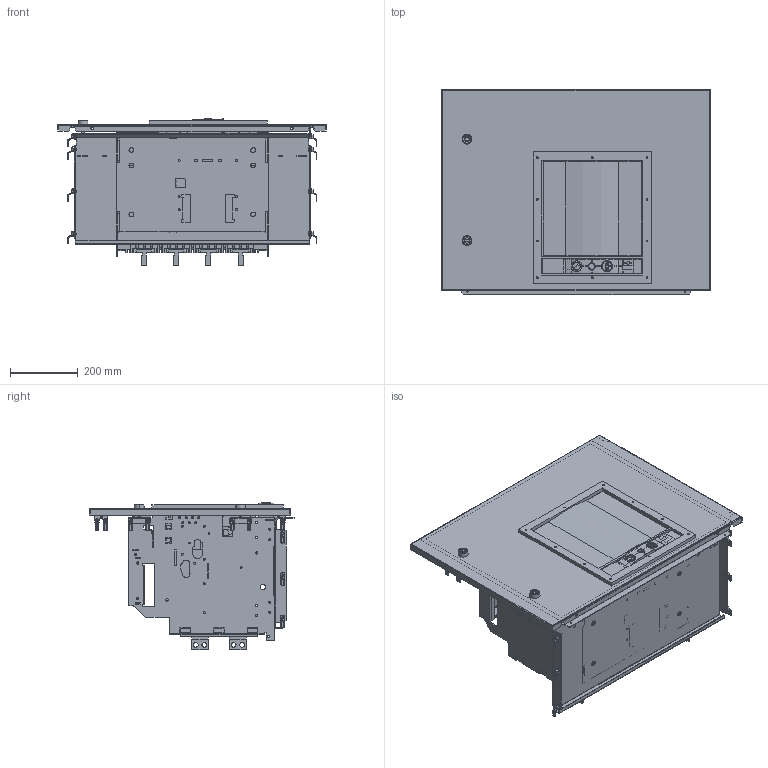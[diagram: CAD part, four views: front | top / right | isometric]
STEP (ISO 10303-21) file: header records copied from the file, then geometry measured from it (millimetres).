
FILE_DESCRIPTION(('CAx-IF Rec.Pracs.---Model Styling and Organization---1.2---2011-12-15','CAx-IF Rec.Pracs.---Geometric and Assembly Validation Properties---4.1---2014-06-16','CAx-IF Rec.Pracs.---PMI Polyline Presentation---2.0---2013-05-24'),'2;1');
FILE_NAME('R5PKEB7V815224P.stp','2021-07-29T03:00:59+03:00',(''),(''),'STEP Interface 4.4 by CT CoreTechnologie','3D_Evolution4.4 by CT CoreTechnologie','');
FILE_SCHEMA(('AUTOMOTIVE_DESIGN { 1 0 10303 214 1 1 1 1 }'));
Length unit declared in the file: millimetre
Products named in the file (1): R5PKEB7V815224P
Bounding box: 794 x 607.5 x 437.6 mm (x, y, z)
Surface area: 5834400.8 mm2 (no closed solid volume)
Topology: 0 solids, 102 shells, 6386 faces, 17893 edges, 11635 vertices
Faces by surface type: plane 3911, cylinder 1958, bspline 517
Entity records: 218269 total; most frequent: CARTESIAN_POINT 51854, ORIENTED_EDGE 35590, DIRECTION 33393, EDGE_CURVE 17807, VECTOR 13137, LINE 13137, VERTEX_POINT 11661, AXIS2_PLACEMENT_3D 10128
